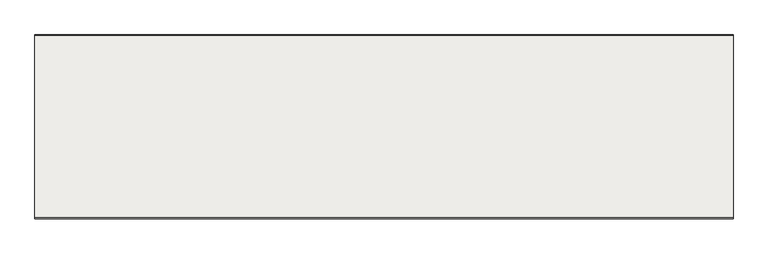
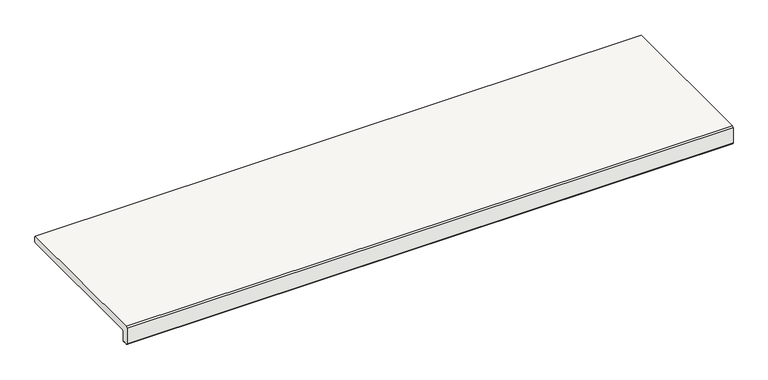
"""IFC4 building model written with IfcOpenShell, lengths in millimetres: slab geometry, ROSA GRES_L62 : Pieza L62_Tresor_Java_Anti-Slip."""

from ifc_helpers import new_model, si_unit, point, frame, frame_2d, origin, place, context, project, spatial, polyline, circle_curve, trimmed, segment, composite_curve, outline, extrude, source, transform, mapped, element, save


def slab_50f677a4(model_context):
    return source(origin(), model_context, "Body", "SweptSolid", [
        extrude(outline(composite_curve([segment(polyline([(12.1001991, -37.0), (9.4054777, -37.0)]), True, "CONTINUOUS"), segment(trimmed(circle_curve(frame_2d((7.4142134, -37.0)), 1.9912643), [point((9.4054777, -37.0))], [point((5.422949, -37.0))], True, "CARTESIAN"), True, "CONTINUOUS"), segment(polyline([(5.422949, -37.0), (2.5, -37.0)]), True, "CONTINUOUS"), segment(trimmed(circle_curve(frame_2d((2.5, -34.5)), 2.5), [point((2.5, -37.0))], [point((0.0, -34.5))], False, "CARTESIAN"), True, "CONTINUOUS"), segment(polyline([(0.0, -34.5), (0.0, -2.5), (2.5, 0.0), (315.5, 0.0), (317.0, -2.5), (317.0, -12.4648352)]), True, "CONTINUOUS"), segment(trimmed(circle_curve(frame_2d((315.5234432, -12.4648352)), 1.4765568), [point((317.0, -12.4648352))], [point((315.5234432, -13.9413919))], False, "CARTESIAN"), True, "CONTINUOUS"), segment(polyline([(315.5234432, -13.9413919), (16.6422322, -13.9413919)]), True, "CONTINUOUS"), segment(trimmed(circle_curve(frame_2d((16.6422322, -16.5836242)), 2.6422322), [point((16.6422322, -13.9413919))], [point((14.0, -16.5836242))], True, "CARTESIAN"), True, "CONTINUOUS"), segment(polyline([(14.0, -16.5836242), (14.0, -35.1001991)]), True, "CONTINUOUS"), segment(trimmed(circle_curve(frame_2d((12.1001991, -35.1001991)), 1.8998009), [point((14.0, -35.1001991))], [point((12.1001991, -37.0))], False, "CARTESIAN"), True, "CONTINUOUS")], self_intersect=False)), frame((0.0, 0.0, 0.0), z_axis=(1.0, 0.0, 0.0), x_axis=(0.0, 1.0, 0.0)), (0.0, 0.0, 1.0), 1203.0),
    ])


if __name__ == "__main__":
    model = new_model("IFC4")
    model_context = context("Model", 3, world=origin())
    ifc_project = project(units=[si_unit("LENGTHUNIT", "METRE", prefix="MILLI")], contexts=[model_context])
    site = spatial("IfcSite", under=ifc_project)
    building = spatial("IfcBuilding", under=site)
    placement = place(None, origin())
    slab_shape = slab_50f677a4(model_context)
    element("IfcSlab", 1, ObjectType="ROSA GRES_L62 : Pieza L62_Tresor_Java_Anti-Slip", at=placement, inside=building, context=model_context, shape_type="MappedRepresentation", body=[
        mapped(slab_shape, transform((0.0, 0.0, 0.0), x_axis=(1.0, 0.0, 0.0), y_axis=(0.0, 1.0, 0.0), z_axis=(0.0, 0.0, 1.0))),
    ])
    save(model, "model.ifc")
